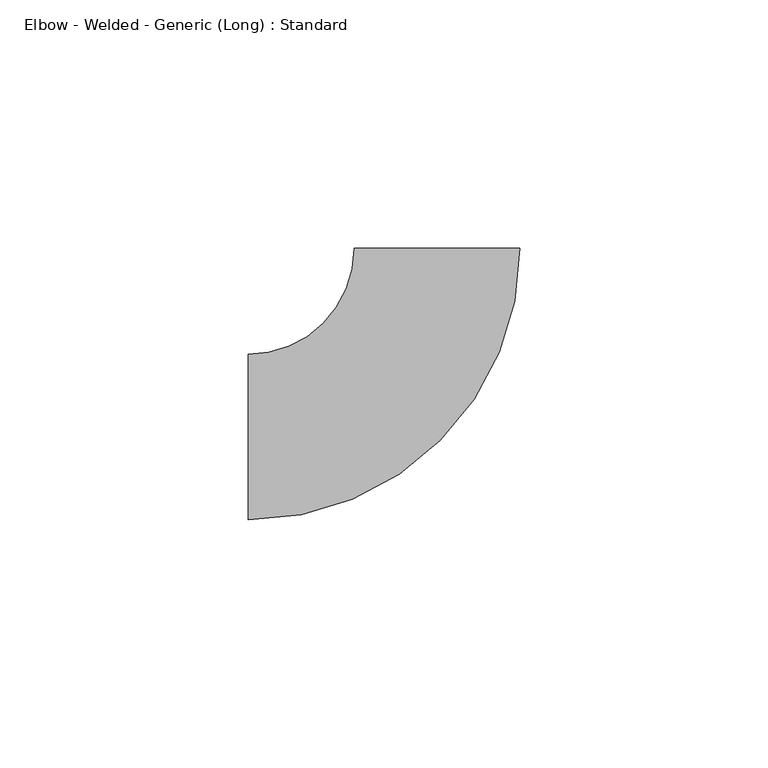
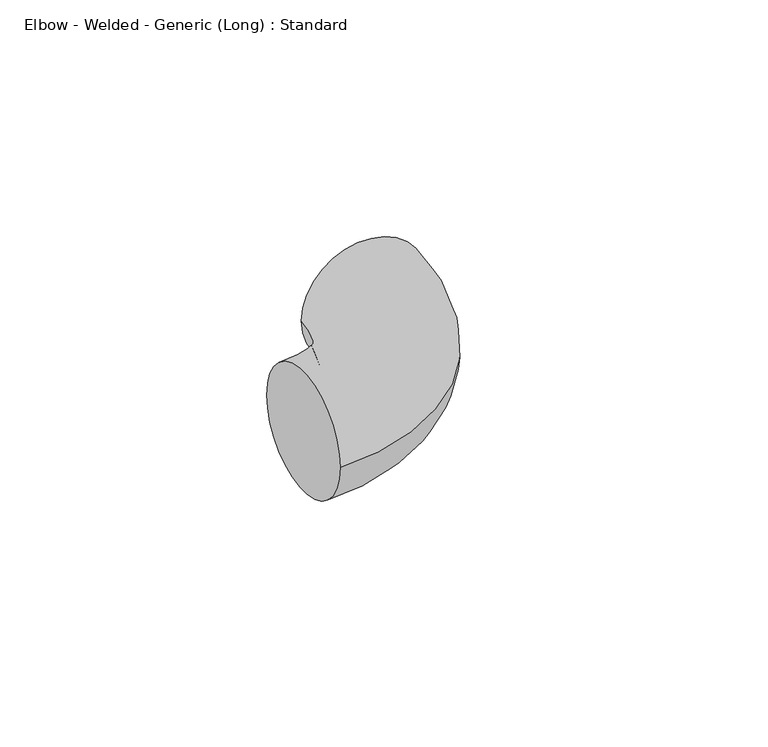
"""IFC4 building model written with IfcOpenShell, lengths in millimetres: pipe fitting geometry, Elbow - Welded - Generic (Long) : Standard."""

from ifc_helpers import new_model, si_unit, point, frame, origin, place, context, project, spatial, circle_curve, ellipse_curve, trimmed, source, transform, mapped, element, save
from ifc_brep_helpers import plane_surface, revolved_surface, advanced_brep


def elbow_welded_generic_long_standard_6b78e1b0(model_context):
    return source(origin(), model_context, "Body", "AdvancedBrep", [
        advanced_brep(
        [(-38.1, -16.66875, 0.0), (-38.1, 16.66875, 0.0), (16.648844, 38.1087027, 0.0), (-16.6886515, 38.0912869, 0.0)],
        [
            (0, 1, circle_curve(frame((-38.1, 0.0, 0.0), z_axis=(-1.0, 0.0, 0.0), x_axis=(0.0, 1.0, 0.0)), 16.66875)),
            (1, 0, circle_curve(frame((-38.1, 0.0, 0.0), z_axis=(-1.0, 0.0, 0.0), x_axis=(0.0, 1.0, 0.0)), 16.66875)),
            (2, 3, circle_curve(frame((-0.0199038, 38.0999948, 0.0), z_axis=(-0.000522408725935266, 0.9999998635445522, 0.0), x_axis=(-0.9999998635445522, -0.000522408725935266, 0.0)), 16.66875)),
            (3, 2, circle_curve(frame((-0.0199038, 38.0999948, 0.0), z_axis=(-0.000522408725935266, 0.9999998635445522, 0.0), x_axis=(-0.9999998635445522, -0.000522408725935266, 0.0)), 16.66875)),
            (3, 1, circle_curve(frame((-38.1, 38.0801014, 0.0), z_axis=(0.0, 0.0, -1.0), x_axis=(0.0, -1.0, 0.0)), 21.4113514)),
            (0, 2, circle_curve(frame((-38.1, 38.0801014, 0.0), z_axis=(0.0, 0.0, 1.0), x_axis=(0.0, -1.0, 0.0)), 54.7488514)),
        ],
        [
            plane_surface(frame((-38.1, 0.0, 0.0), z_axis=(-1.0, 0.0, 0.0), x_axis=(0.0, 0.0, 1.0))),
            plane_surface(frame((-0.0199038, 38.0999948, 0.0), z_axis=(-0.0005224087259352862, 0.9999998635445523, 0.0), x_axis=(0.0, 0.0, 1.0))),
            revolved_surface(trimmed(ellipse_curve(frame((-38.1, 0.0, 0.0), z_axis=(-1.0, 0.0, 0.0), x_axis=(0.0, 1.0, 0.0)), 16.66875, 16.66875), [point((-38.1, -16.66875, 0.0))], [point((-38.1, 16.66875, 0.0))], True, "CARTESIAN"), (-38.1, 38.0801014, 0.0), (0.0, 0.0, 1.0)),
            revolved_surface(trimmed(ellipse_curve(frame((-38.1, 0.0, 0.0), z_axis=(-1.0, 0.0, 0.0), x_axis=(0.0, 1.0, 0.0)), 16.66875, 16.66875), [point((-38.1, 16.66875, 0.0))], [point((-38.1, -16.66875, 0.0))], True, "CARTESIAN"), (-38.1, 38.0801014, 0.0), (0.0, 0.0, 1.0)),
        ],
        [
            (0, [[1, 2]]),
            (1, [[3, 4]]),
            (2, [[5, -1, 6, -4]]),
            (3, [[-6, -2, -5, -3]]),
        ],
    ),
    ])


if __name__ == "__main__":
    model = new_model("IFC4")
    model_context = context("Model", 3, world=origin())
    ifc_project = project(units=[si_unit("LENGTHUNIT", "METRE", prefix="MILLI")], contexts=[model_context])
    site = spatial("IfcSite", under=ifc_project)
    building = spatial("IfcBuilding", under=site)
    placement = place(None, origin())
    elbow_welded_generic_long_standard_shape = elbow_welded_generic_long_standard_6b78e1b0(model_context)
    element("IfcPipeFitting", 1, ObjectType="Elbow - Welded - Generic (Long) : Standard", at=placement, inside=building, context=model_context, shape_type="MappedRepresentation", body=[
        mapped(elbow_welded_generic_long_standard_shape, transform((0.0, 0.0, 0.0), x_axis=(1.0, 0.0, 0.0), y_axis=(0.0, 1.0, 0.0), z_axis=(0.0, 0.0, 1.0))),
    ])
    save(model, "model.ifc")
